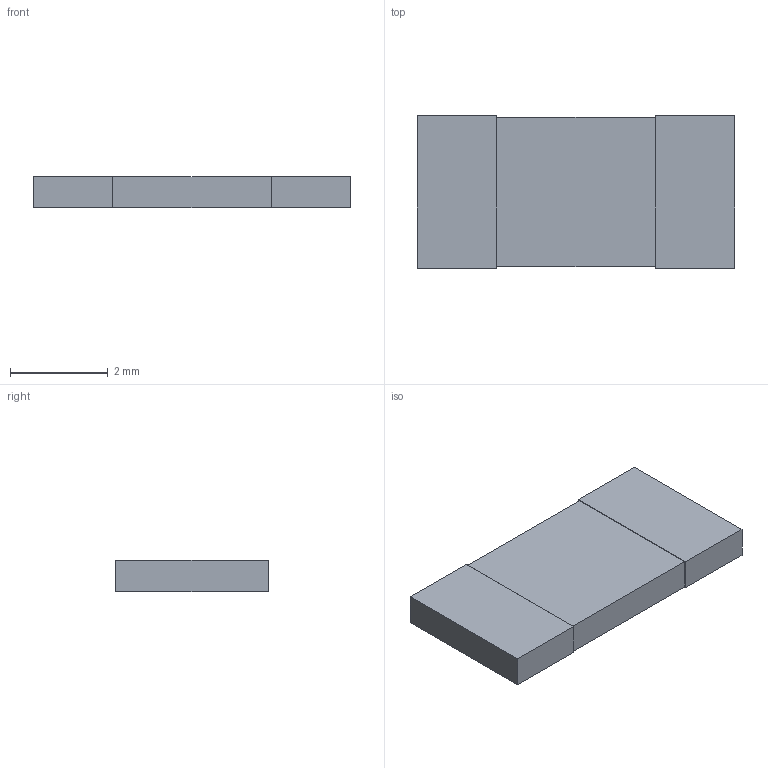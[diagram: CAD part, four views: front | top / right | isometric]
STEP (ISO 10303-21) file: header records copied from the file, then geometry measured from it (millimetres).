
FILE_DESCRIPTION(('FreeCAD Model'),'2;1');
FILE_NAME('Open CASCADE Shape Model','2021-06-29T03:06:59',('Author'),( ''),'Open CASCADE STEP processor 7.5','FreeCAD','Unknown');
FILE_SCHEMA(('AUTOMOTIVE_DESIGN { 1 0 10303 214 1 1 1 1 }'));
Length unit declared in the file: millimetre
Products named in the file (1): intersection
Bounding box: 6.48 x 3.11 x 0.65 mm (x, y, z)
Volume: 12.8 mm3; surface area: 52.4 mm2
Topology: 1 solids, 1 shells, 18 faces, 44 edges, 28 vertices
Faces by surface type: bspline 12, plane 6
Entity records: 1136 total; most frequent: CARTESIAN_POINT 329, B_SPLINE_CURVE_WITH_KNOTS 108, ORIENTED_EDGE 88, PCURVE 88, DEFINITIONAL_REPRESENTATION 88, EDGE_CURVE 44, SURFACE_CURVE 44, DIRECTION 38
